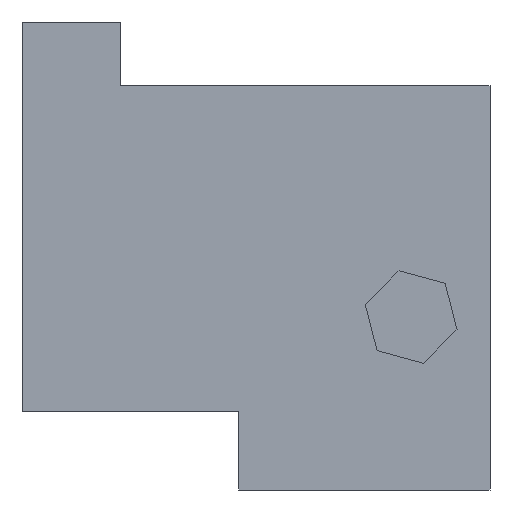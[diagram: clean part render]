
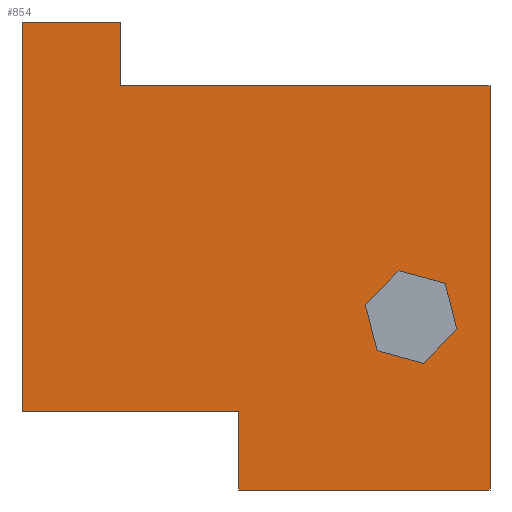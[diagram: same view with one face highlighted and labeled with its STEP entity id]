
A CAD part, left-side view. The second image highlights one B-rep face of the part: STEP entity #854.
In plain terms, the highlighted planar face has unit normal (-1, 0, 0).
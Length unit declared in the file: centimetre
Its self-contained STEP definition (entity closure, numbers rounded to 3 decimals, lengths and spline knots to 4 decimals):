
#3 = CARTESIAN_POINT ( 'NONE',  ( 0., 95.8831, 441.3118 ) ) ;
#15 = VECTOR ( 'NONE', #649, 100. ) ;
#18 = EDGE_CURVE ( 'NONE', #284, #840, #415, .T. ) ;
#49 = VERTEX_POINT ( 'NONE', #237 ) ;
#80 = VECTOR ( 'NONE', #857, 100. ) ;
#86 = EDGE_CURVE ( 'NONE', #617, #473, #973, .T. ) ;
#97 = PLANE ( 'NONE',  #1029 ) ;
#111 = CARTESIAN_POINT ( 'NONE',  ( 0., 266.6833, 396.1079 ) ) ;
#127 = CARTESIAN_POINT ( 'NONE',  ( 0., 0., 1000. ) ) ;
#148 = ORIENTED_EDGE ( 'NONE', *, *, #836, .F. ) ;
#162 = ORIENTED_EDGE ( 'NONE', *, *, #541, .F. ) ;
#171 = CARTESIAN_POINT ( 'NONE',  ( 0., 537.1754, 167.9144 ) ) ;
#180 = LINE ( 'NONE', #1033, #15 ) ;
#184 = CARTESIAN_POINT ( 'NONE',  ( 0., 788.8981, 1000. ) ) ;
#192 = ORIENTED_EDGE ( 'NONE', *, *, #280, .F. ) ;
#193 = EDGE_CURVE ( 'NONE', #1157, #678, #1185, .T. ) ;
#209 = DIRECTION ( 'NONE',  ( 0., 0., -1. ) ) ;
#218 = LINE ( 'NONE', #127, #874 ) ;
#220 = DIRECTION ( 'NONE',  ( 0., -1., 0. ) ) ;
#237 = CARTESIAN_POINT ( 'NONE',  ( 0., 1000., 167.9144 ) ) ;
#238 = ORIENTED_EDGE ( 'NONE', *, *, #193, .F. ) ;
#240 = ORIENTED_EDGE ( 'NONE', *, *, #800, .F. ) ;
#252 = VERTEX_POINT ( 'NONE', #1062 ) ;
#257 = ORIENTED_EDGE ( 'NONE', *, *, #86, .F. ) ;
#261 = EDGE_CURVE ( 'NONE', #840, #504, #1154, .T. ) ;
#269 = CARTESIAN_POINT ( 'NONE',  ( 0., 1000., 1000. ) ) ;
#273 = VECTOR ( 'NONE', #1134, 100. ) ;
#280 = EDGE_CURVE ( 'NONE', #1129, #49, #907, .T. ) ;
#284 = VERTEX_POINT ( 'NONE', #1117 ) ;
#285 = VECTOR ( 'NONE', #1122, 100. ) ;
#315 = ORIENTED_EDGE ( 'NONE', *, *, #455, .T. ) ;
#340 = DIRECTION ( 'NONE',  ( 0., 0., -1. ) ) ;
#341 = DIRECTION ( 'NONE',  ( 0., -0.707, 0.707 ) ) ;
#345 = EDGE_CURVE ( 'NONE', #473, #1096, #358, .T. ) ;
#347 = LINE ( 'NONE', #1076, #623 ) ;
#348 = ORIENTED_EDGE ( 'NONE', *, *, #506, .F. ) ;
#350 = DIRECTION ( 'NONE',  ( 0., 0.25, 0.968 ) ) ;
#358 = LINE ( 'NONE', #1201, #650 ) ;
#369 = LINE ( 'NONE', #3, #273 ) ;
#375 = VERTEX_POINT ( 'NONE', #616 ) ;
#376 = DIRECTION ( 'NONE',  ( 0., 0., -1. ) ) ;
#415 = LINE ( 'NONE', #422, #567 ) ;
#417 = CARTESIAN_POINT ( 'NONE',  ( 0., 95.8831, 441.3118 ) ) ;
#422 = CARTESIAN_POINT ( 'NONE',  ( 0., 1000., 1000. ) ) ;
#455 = EDGE_CURVE ( 'NONE', #375, #996, #347, .T. ) ;
#463 = FACE_BOUND ( 'NONE', #820, .T. ) ;
#468 = DIRECTION ( 'NONE',  ( 1., 0., 0. ) ) ;
#473 = VERTEX_POINT ( 'NONE', #807 ) ;
#485 = CARTESIAN_POINT ( 'NONE',  ( 0., 0., 0. ) ) ;
#504 = VERTEX_POINT ( 'NONE', #992 ) ;
#506 = EDGE_CURVE ( 'NONE', #558, #996, #218, .T. ) ;
#541 = EDGE_CURVE ( 'NONE', #252, #1157, #833, .T. ) ;
#558 = VERTEX_POINT ( 'NONE', #1007 ) ;
#567 = VECTOR ( 'NONE', #220, 100. ) ;
#578 = ORIENTED_EDGE ( 'NONE', *, *, #643, .T. ) ;
#580 = DIRECTION ( 'NONE',  ( 0., -0.25, -0.968 ) ) ;
#581 = CARTESIAN_POINT ( 'NONE',  ( 0., 537.1754, 167.9144 ) ) ;
#586 = LINE ( 'NONE', #963, #80 ) ;
#591 = ORIENTED_EDGE ( 'NONE', *, *, #345, .F. ) ;
#612 = ORIENTED_EDGE ( 'NONE', *, *, #1000, .F. ) ;
#616 = CARTESIAN_POINT ( 'NONE',  ( 0., 537.1754, 0. ) ) ;
#617 = VERTEX_POINT ( 'NONE', #921 ) ;
#623 = VECTOR ( 'NONE', #904, 100. ) ;
#629 = VECTOR ( 'NONE', #633, 100. ) ;
#632 = VECTOR ( 'NONE', #1207, 100. ) ;
#633 = DIRECTION ( 'NONE',  ( 0., 0., -1. ) ) ;
#643 = EDGE_CURVE ( 'NONE', #284, #49, #1065, .T. ) ;
#649 = DIRECTION ( 'NONE',  ( 0., 0., 1. ) ) ;
#650 = VECTOR ( 'NONE', #350, 100. ) ;
#664 = VECTOR ( 'NONE', #341, 100. ) ;
#671 = ORIENTED_EDGE ( 'NONE', *, *, #261, .F. ) ;
#676 = CARTESIAN_POINT ( 'NONE',  ( 0., 241.2837, 297.6837 ) ) ;
#678 = VERTEX_POINT ( 'NONE', #676 ) ;
#681 = CARTESIAN_POINT ( 'NONE',  ( 0., 788.8981, 863.4509 ) ) ;
#706 = VECTOR ( 'NONE', #209, 100. ) ;
#712 = ORIENTED_EDGE ( 'NONE', *, *, #18, .F. ) ;
#728 = CARTESIAN_POINT ( 'NONE',  ( 0., 194.4261, 468.3651 ) ) ;
#768 = DIRECTION ( 'NONE',  ( 0., -1., 0. ) ) ;
#800 = EDGE_CURVE ( 'NONE', #1096, #252, #369, .T. ) ;
#807 = CARTESIAN_POINT ( 'NONE',  ( 0., 70.4836, 342.8876 ) ) ;
#814 = ORIENTED_EDGE ( 'NONE', *, *, #953, .F. ) ;
#820 = EDGE_LOOP ( 'NONE', ( #162, #240, #591, #257, #612, #238 ) ) ;
#833 = LINE ( 'NONE', #728, #285 ) ;
#836 = EDGE_CURVE ( 'NONE', #375, #1129, #180, .T. ) ;
#840 = VERTEX_POINT ( 'NONE', #184 ) ;
#854 = ADVANCED_FACE ( 'NONE', ( #463, #934 ), #97, .F. ) ;
#857 = DIRECTION ( 'NONE',  ( 0., -0.964, -0.265 ) ) ;
#860 = CARTESIAN_POINT ( 'NONE',  ( 0., 266.6833, 396.1079 ) ) ;
#864 = CARTESIAN_POINT ( 'NONE',  ( 0., 788.8981, 863.4509 ) ) ;
#874 = VECTOR ( 'NONE', #340, 100. ) ;
#881 = CARTESIAN_POINT ( 'NONE',  ( 0., 1000., 1000. ) ) ;
#904 = DIRECTION ( 'NONE',  ( 0., -1., 0. ) ) ;
#907 = LINE ( 'NONE', #171, #632 ) ;
#921 = CARTESIAN_POINT ( 'NONE',  ( 0., 142.7408, 270.6304 ) ) ;
#934 = FACE_OUTER_BOUND ( 'NONE', #1001, .T. ) ;
#953 = EDGE_CURVE ( 'NONE', #504, #558, #1067, .T. ) ;
#963 = CARTESIAN_POINT ( 'NONE',  ( 0., 241.2837, 297.6837 ) ) ;
#973 = LINE ( 'NONE', #1189, #664 ) ;
#992 = CARTESIAN_POINT ( 'NONE',  ( 0., 788.8981, 863.4509 ) ) ;
#996 = VERTEX_POINT ( 'NONE', #485 ) ;
#1000 = EDGE_CURVE ( 'NONE', #678, #617, #586, .T. ) ;
#1001 = EDGE_LOOP ( 'NONE', ( #348, #814, #671, #712, #578, #192, #148, #315 ) ) ;
#1007 = CARTESIAN_POINT ( 'NONE',  ( 0., 0., 863.4509 ) ) ;
#1027 = VECTOR ( 'NONE', #580, 100. ) ;
#1029 = AXIS2_PLACEMENT_3D ( 'NONE', #269, #468, #376 ) ;
#1033 = CARTESIAN_POINT ( 'NONE',  ( 0., 537.1754, 167.9144 ) ) ;
#1062 = CARTESIAN_POINT ( 'NONE',  ( 0., 194.4261, 468.3651 ) ) ;
#1065 = LINE ( 'NONE', #881, #629 ) ;
#1067 = LINE ( 'NONE', #864, #1190 ) ;
#1076 = CARTESIAN_POINT ( 'NONE',  ( 0., 1000., 0. ) ) ;
#1096 = VERTEX_POINT ( 'NONE', #417 ) ;
#1117 = CARTESIAN_POINT ( 'NONE',  ( 0., 1000., 1000. ) ) ;
#1122 = DIRECTION ( 'NONE',  ( 0., 0.707, -0.707 ) ) ;
#1129 = VERTEX_POINT ( 'NONE', #581 ) ;
#1134 = DIRECTION ( 'NONE',  ( 0., 0.964, 0.265 ) ) ;
#1154 = LINE ( 'NONE', #681, #706 ) ;
#1157 = VERTEX_POINT ( 'NONE', #860 ) ;
#1185 = LINE ( 'NONE', #111, #1027 ) ;
#1189 = CARTESIAN_POINT ( 'NONE',  ( 0., 142.7408, 270.6304 ) ) ;
#1190 = VECTOR ( 'NONE', #768, 100. ) ;
#1201 = CARTESIAN_POINT ( 'NONE',  ( 0., 70.4836, 342.8876 ) ) ;
#1207 = DIRECTION ( 'NONE',  ( 0., 1., 0. ) ) ;
